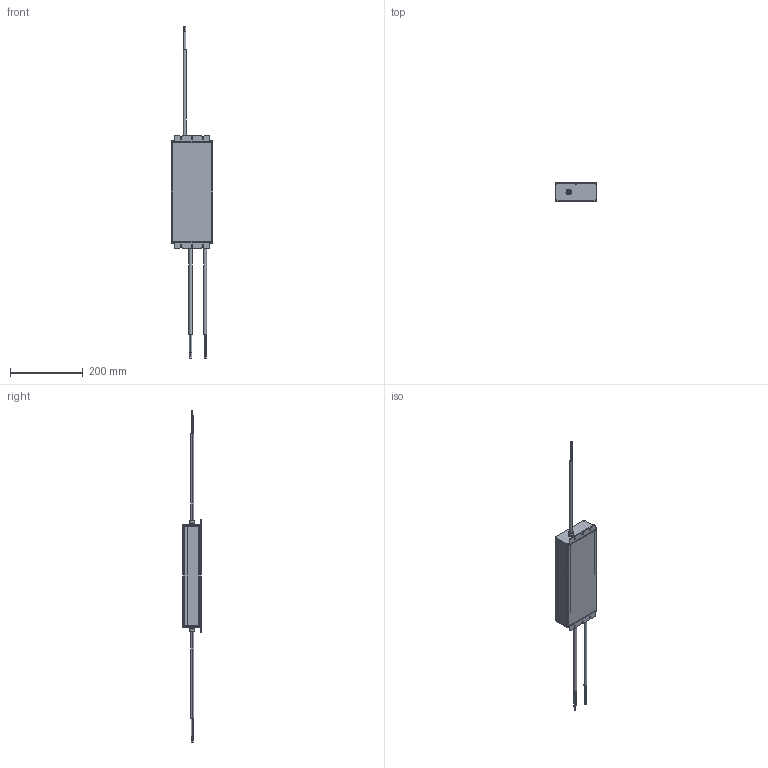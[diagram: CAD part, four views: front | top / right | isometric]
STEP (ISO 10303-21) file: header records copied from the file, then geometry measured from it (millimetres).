
FILE_DESCRIPTION((''),'2;1');
FILE_NAME('LNE-36V600WBGA_ASM_2','2022-10-18T',('KIMI.HSU'),(''),'PRO/ENGINEER BY PARAMETRIC TECHNOLOGY CORPORATION, 2013150','PRO/ENGINEER BY PARAMETRIC TECHNOLOGY CORPORATION, 2013150','');
FILE_SCHEMA(('CONFIG_CONTROL_DESIGN'));
Length unit declared in the file: millimetre
Products named in the file (9): CASE1_2_1_1_1; INPUT_SEAL_1_1_1_1; OUTPUT_SEAL_1_1_1_1; INPUT_BRACKET_1_1_1_1; OUTPUT_BRACKET_1_1_1_1; INPUT_CABLE_1_1_1_1; OUTPUT_CABLE_1_1_1_1; DIM_CABLE_1_1_1_1; LNE-36V600WBGA_ASM_2
Assembly tree (8 placements, depth 2):
  LNE-36V600WBGA_ASM_2
    CASE1_2_1_1_1
    INPUT_SEAL_1_1_1_1
    OUTPUT_SEAL_1_1_1_1
    INPUT_BRACKET_1_1_1_1
    OUTPUT_BRACKET_1_1_1_1
    INPUT_CABLE_1_1_1_1
    OUTPUT_CABLE_1_1_1_1
    DIM_CABLE_1_1_1_1
Bounding box: 114.3 x 50.8 x 910.7 mm (x, y, z)
Volume: 394770.2 mm3; surface area: 275372.5 mm2
Topology: 8 solids, 8 shells, 441 faces, 1261 edges, 857 vertices
Faces by surface type: plane 231, cylinder 192, cone 18
Entity records: 16698 total; most frequent: CARTESIAN_POINT 2708, DIRECTION 2622, ORIENTED_EDGE 2522, EDGE_CURVE 1261, AXIS2_PLACEMENT_3D 934, VERTEX_POINT 857, VECTOR 754, LINE 754
